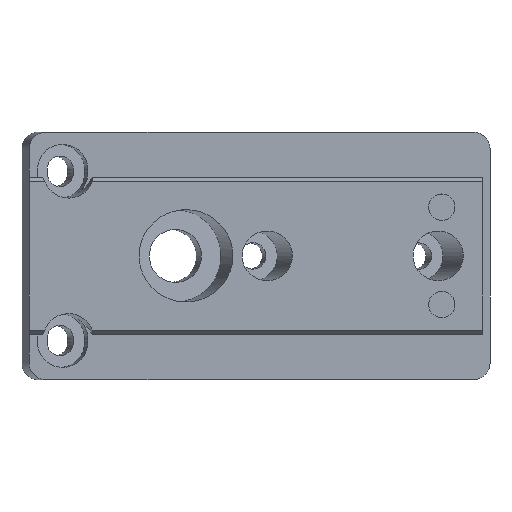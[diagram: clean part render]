
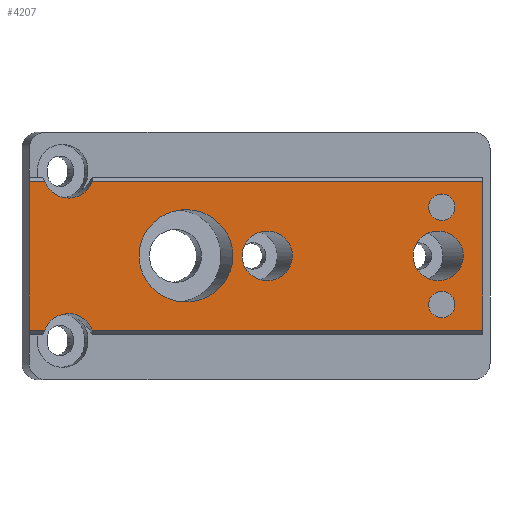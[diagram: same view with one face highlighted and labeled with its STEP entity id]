
A CAD part, top view. The second image highlights one B-rep face of the part: STEP entity #4207.
In plain terms, the highlighted planar face has unit normal (0, 0, 1).
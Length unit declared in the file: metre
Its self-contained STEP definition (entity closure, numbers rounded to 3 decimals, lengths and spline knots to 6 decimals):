
#198=ELLIPSE('',#4479,0.005686,0.0056);
#199=ELLIPSE('',#4480,0.003046,0.003);
#200=ELLIPSE('',#4481,0.003046,0.003);
#201=ELLIPSE('',#4484,0.003046,0.003);
#202=ELLIPSE('',#4485,0.003046,0.003);
#276=CIRCLE('',#4482,0.0016);
#277=CIRCLE('',#4483,0.0016);
#359=ORIENTED_EDGE('',*,*,#1629,.T.);
#360=ORIENTED_EDGE('',*,*,#1630,.T.);
#361=ORIENTED_EDGE('',*,*,#1631,.T.);
#362=ORIENTED_EDGE('',*,*,#1632,.T.);
#363=ORIENTED_EDGE('',*,*,#1633,.T.);
#364=ORIENTED_EDGE('',*,*,#1634,.F.);
#365=ORIENTED_EDGE('',*,*,#1635,.T.);
#366=ORIENTED_EDGE('',*,*,#1636,.F.);
#367=ORIENTED_EDGE('',*,*,#1637,.T.);
#368=ORIENTED_EDGE('',*,*,#1638,.F.);
#369=ORIENTED_EDGE('',*,*,#1639,.T.);
#370=ORIENTED_EDGE('',*,*,#1640,.T.);
#371=ORIENTED_EDGE('',*,*,#1641,.T.);
#1629=EDGE_CURVE('',#2264,#2264,#198,.T.);
#1630=EDGE_CURVE('',#2265,#2265,#199,.T.);
#1631=EDGE_CURVE('',#2266,#2266,#200,.T.);
#1632=EDGE_CURVE('',#2267,#2267,#276,.T.);
#1633=EDGE_CURVE('',#2268,#2268,#277,.T.);
#1634=EDGE_CURVE('',#2269,#2270,#201,.F.);
#1635=EDGE_CURVE('',#2269,#2271,#2673,.T.);
#1636=EDGE_CURVE('',#2272,#2271,#2674,.T.);
#1637=EDGE_CURVE('',#2272,#2273,#2675,.T.);
#1638=EDGE_CURVE('',#2274,#2273,#202,.F.);
#1639=EDGE_CURVE('',#2274,#2275,#2676,.T.);
#1640=EDGE_CURVE('',#2275,#2276,#2677,.T.);
#1641=EDGE_CURVE('',#2276,#2270,#2678,.T.);
#2264=VERTEX_POINT('',#5756);
#2265=VERTEX_POINT('',#5758);
#2266=VERTEX_POINT('',#5760);
#2267=VERTEX_POINT('',#5762);
#2268=VERTEX_POINT('',#5764);
#2269=VERTEX_POINT('',#5766);
#2270=VERTEX_POINT('',#5767);
#2271=VERTEX_POINT('',#5769);
#2272=VERTEX_POINT('',#5771);
#2273=VERTEX_POINT('',#5773);
#2274=VERTEX_POINT('',#5775);
#2275=VERTEX_POINT('',#5777);
#2276=VERTEX_POINT('',#5779);
#2673=LINE('',#5768,#3100);
#2674=LINE('',#5770,#3101);
#2675=LINE('',#5772,#3102);
#2676=LINE('',#5776,#3103);
#2677=LINE('',#5778,#3104);
#2678=LINE('',#5780,#3105);
#3100=VECTOR('',#4799,1.);
#3101=VECTOR('',#4800,1.);
#3102=VECTOR('',#4801,1.);
#3103=VECTOR('',#4804,1.);
#3104=VECTOR('',#4805,1.);
#3105=VECTOR('',#4806,1.);
#3514=EDGE_LOOP('',(#359));
#3515=EDGE_LOOP('',(#360));
#3516=EDGE_LOOP('',(#361));
#3517=EDGE_LOOP('',(#362));
#3518=EDGE_LOOP('',(#363));
#3519=EDGE_LOOP('',(#364,#365,#366,#367,#368,#369,#370,#371));
#3793=FACE_BOUND('',#3514,.T.);
#3794=FACE_BOUND('',#3515,.T.);
#3795=FACE_BOUND('',#3516,.T.);
#3796=FACE_BOUND('',#3517,.T.);
#3797=FACE_BOUND('',#3518,.T.);
#3798=FACE_BOUND('',#3519,.T.);
#4064=PLANE('',#4478);
#4207=ADVANCED_FACE('',(#3793,#3794,#3795,#3796,#3797,#3798),#4064,.F.);
#4478=AXIS2_PLACEMENT_3D('',#5754,#4785,#4786);
#4479=AXIS2_PLACEMENT_3D('',#5755,#4787,#4788);
#4480=AXIS2_PLACEMENT_3D('',#5757,#4789,#4790);
#4481=AXIS2_PLACEMENT_3D('',#5759,#4791,#4792);
#4482=AXIS2_PLACEMENT_3D('',#5761,#4793,#4794);
#4483=AXIS2_PLACEMENT_3D('',#5763,#4795,#4796);
#4484=AXIS2_PLACEMENT_3D('',#5765,#4797,#4798);
#4485=AXIS2_PLACEMENT_3D('',#5774,#4802,#4803);
#4785=DIRECTION('',(0.,0.,-1.));
#4786=DIRECTION('',(-1.,0.,0.));
#4787=DIRECTION('',(0.,0.,-1.));
#4788=DIRECTION('',(-1.,0.,0.));
#4789=DIRECTION('',(0.,0.,-1.));
#4790=DIRECTION('',(-1.,0.,0.));
#4791=DIRECTION('',(0.,0.,-1.));
#4792=DIRECTION('',(-1.,0.,0.));
#4793=DIRECTION('',(0.,0.,-1.));
#4794=DIRECTION('',(-1.,0.,0.));
#4795=DIRECTION('',(0.,0.,-1.));
#4796=DIRECTION('',(-1.,0.,0.));
#4797=DIRECTION('',(0.,0.,-1.));
#4798=DIRECTION('',(-1.,0.,0.));
#4799=DIRECTION('',(1.,0.,0.));
#4800=DIRECTION('',(0.,-1.,0.));
#4801=DIRECTION('',(-1.,0.,0.));
#4802=DIRECTION('',(0.,0.,-1.));
#4803=DIRECTION('',(-1.,0.,0.));
#4804=DIRECTION('',(-1.,0.,0.));
#4805=DIRECTION('',(0.,-1.,0.));
#4806=DIRECTION('',(1.,0.,0.));
#5754=CARTESIAN_POINT('',(0.055,0.,0.0041));
#5755=CARTESIAN_POINT('',(0.019001,0.,0.0041));
#5756=CARTESIAN_POINT('',(0.013314,0.,0.0041));
#5757=CARTESIAN_POINT('',(0.049565,0.,0.0041));
#5758=CARTESIAN_POINT('',(0.046519,0.,0.0041));
#5759=CARTESIAN_POINT('',(0.02885,0.,0.0041));
#5760=CARTESIAN_POINT('',(0.025804,0.,0.0041));
#5761=CARTESIAN_POINT('',(0.05,0.0059,0.0041));
#5762=CARTESIAN_POINT('',(0.0484,0.0059,0.0041));
#5763=CARTESIAN_POINT('',(0.05,-0.0059,0.0041));
#5764=CARTESIAN_POINT('',(0.0484,-0.0059,0.0041));
#5765=CARTESIAN_POINT('',(0.004785,-0.01,0.0041));
#5766=CARTESIAN_POINT('',(0.007658,-0.009004,0.0041));
#5767=CARTESIAN_POINT('',(0.001911,-0.009004,0.0041));
#5768=CARTESIAN_POINT('',(0.055,-0.009004,0.0041));
#5769=CARTESIAN_POINT('',(0.055,-0.009004,0.0041));
#5770=CARTESIAN_POINT('',(0.055,0.,0.0041));
#5771=CARTESIAN_POINT('',(0.055,0.009004,0.0041));
#5772=CARTESIAN_POINT('',(0.,0.009004,0.0041));
#5773=CARTESIAN_POINT('',(0.007658,0.009004,0.0041));
#5774=CARTESIAN_POINT('',(0.004785,0.01,0.0041));
#5775=CARTESIAN_POINT('',(0.001911,0.009004,0.0041));
#5776=CARTESIAN_POINT('',(0.,0.009004,0.0041));
#5777=CARTESIAN_POINT('',(0.,0.009004,0.0041));
#5778=CARTESIAN_POINT('',(0.,0.,0.0041));
#5779=CARTESIAN_POINT('',(0.,-0.009004,0.0041));
#5780=CARTESIAN_POINT('',(0.055,-0.009004,0.0041));
